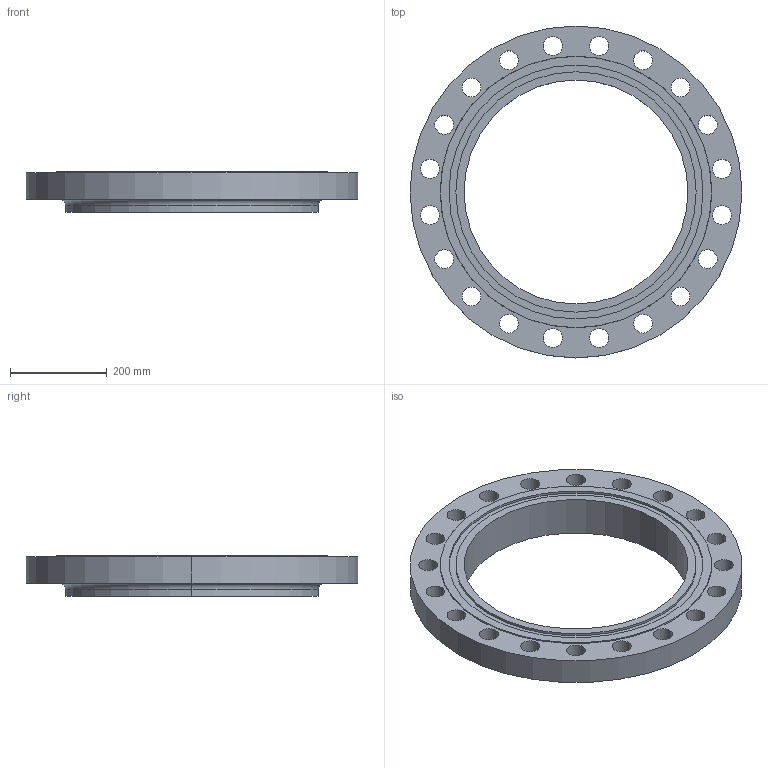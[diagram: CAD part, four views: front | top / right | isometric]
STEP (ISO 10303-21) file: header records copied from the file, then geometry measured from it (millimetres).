
FILE_DESCRIPTION (( 'STEP AP214' ), '1' );
FILE_NAME ('PN40 DN450 Type 12 - Type D Face.STEP', '2018-12-29T02:36:01', ( '' ), ( '' ), 'SwSTEP 2.0', 'SolidWorks 2019', '' );
FILE_SCHEMA (( 'AUTOMOTIVE_DESIGN' ));
Length unit declared in the file: millimetre
Products named in the file (1): PN40 DN450 Type 12 - Type D Face
Bounding box: 685 x 685 x 84 mm (x, y, z)
Volume: 11083872.4 mm3; surface area: 783920.8 mm2
Topology: 1 solids, 1 shells, 60 faces, 160 edges, 106 vertices
Faces by surface type: cylinder 50, plane 6, torus 2, cone 2
Entity records: 2054 total; most frequent: DIRECTION 390, CARTESIAN_POINT 327, ORIENTED_EDGE 320, AXIS2_PLACEMENT_3D 169, EDGE_CURVE 160, CIRCLE 108, EDGE_LOOP 106, VERTEX_POINT 106
